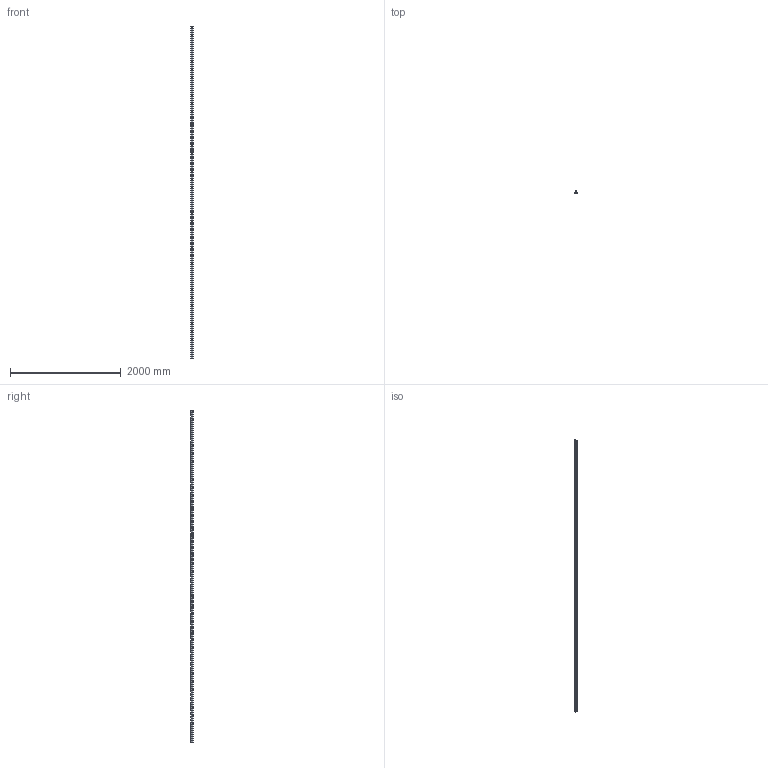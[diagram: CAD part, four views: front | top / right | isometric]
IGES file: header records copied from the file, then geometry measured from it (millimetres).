
Start section: SolidWorks IGES file using analytic representation for surfaces
Global section: file name: D:\SOLIDWORKS PROEKTI\freelance cnc cat\CETVRTA SERIJA\SBR\SBR20.IGS; native system: SolidWorks 2016; preprocessor: SolidWorks 2016; author: User; date: 170811.200101; units: millimetre
Bounding box: 45 x 37 x 6000 mm (x, y, z)
Surface area: 1030782.9 mm2 (no closed solid volume)
Topology: 0 solids, 0 shells, 1160 faces, 20740 edges, 23869 vertices
Faces by surface type: revolution 678, bspline 482
